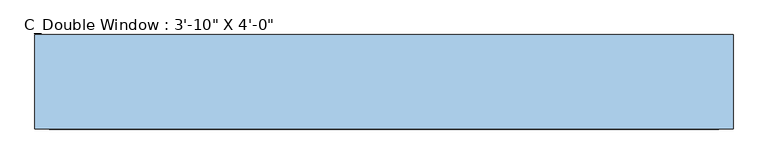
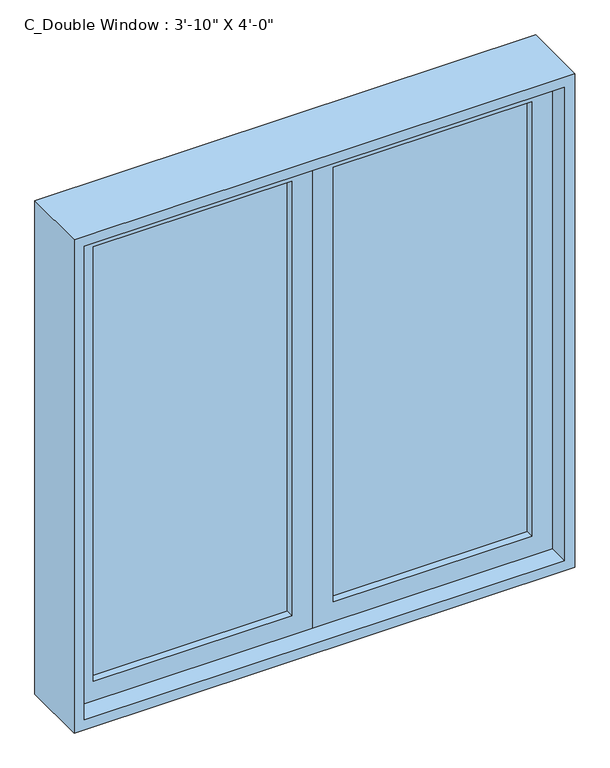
"""IFC4 building model written with IfcOpenShell, lengths in millimetres: window geometry."""

from ifc_helpers import new_model, si_unit, frame, origin, place, context, project, spatial, polyline, outline, extrude, source, transform, mapped, element, save


def window_50703a3a(model_context):
    return source(origin(), model_context, "Body", "SweptSolid", [
        extrude(outline(polyline([(-533.4, -12.7), (-533.4, 0.0), (-50.8, 0.0), (-50.8, -12.7), (-533.4, -12.7)])), frame((0.0, 0.0, 965.2), z_axis=(0.0, 0.0, 1.0), x_axis=(1.0, 0.0, 0.0)), (0.0, 0.0, 1.0), 1117.6),
        extrude(outline(polyline([(2133.6, -584.2), (914.4, -584.2), (914.4, 0.0), (2133.6, 0.0), (2133.6, -584.2)]), holes=[polyline([(2082.8, -50.8), (965.2, -50.8), (965.2, -533.4), (2082.8, -533.4), (2082.8, -50.8)])]), frame((0.0, -31.75, 0.0), z_axis=(0.0, 1.0, 0.0), x_axis=(0.0, 0.0, 1.0)), (0.0, 0.0, 1.0), 50.8),
        extrude(outline(polyline([(50.8, -12.7), (50.8, 0.0), (533.4, 0.0), (533.4, -12.7), (50.8, -12.7)])), frame((0.0, 0.0, 965.2), z_axis=(0.0, 0.0, 1.0), x_axis=(1.0, 0.0, 0.0)), (0.0, 0.0, 1.0), 1117.6),
        extrude(outline(polyline([(2133.6, 0.0), (914.4, 0.0), (914.4, 584.2), (2133.6, 584.2), (2133.6, 0.0)]), holes=[polyline([(2082.8, 533.4), (965.2, 533.4), (965.2, 50.8), (2082.8, 50.8), (2082.8, 533.4)])]), frame((0.0, -31.75, 0.0), z_axis=(0.0, 1.0, 0.0), x_axis=(0.0, 0.0, 1.0)), (0.0, 0.0, 1.0), 50.8),
        extrude(outline(polyline([(2159.0, -609.6), (889.0, -609.6), (889.0, 609.6), (2159.0, 609.6), (2159.0, -609.6)]), holes=[polyline([(2133.6, 584.2), (914.4, 584.2), (914.4, -584.2), (2133.6, -584.2), (2133.6, 584.2)])]), frame((0.0, -82.55, 0.0), z_axis=(0.0, 1.0, 0.0), x_axis=(0.0, 0.0, 1.0)), (0.0, 0.0, 1.0), 165.1),
    ])


if __name__ == "__main__":
    model = new_model("IFC4")
    model_context = context("Model", 3, world=origin())
    ifc_project = project(units=[si_unit("LENGTHUNIT", "METRE", prefix="MILLI")], contexts=[model_context])
    site = spatial("IfcSite", under=ifc_project)
    building = spatial("IfcBuilding", under=site)
    placement = place(None, origin())
    window_shape = window_50703a3a(model_context)
    element("IfcWindow", 1, ObjectType="C_Double Window : 3'-10\" X 4'-0\"", at=placement, inside=building, context=model_context, shape_type="MappedRepresentation", body=[
        mapped(window_shape, transform((0.0, 0.0, 0.0), x_axis=(1.0, 0.0, 0.0), y_axis=(0.0, 1.0, 0.0), z_axis=(0.0, 0.0, 1.0))),
    ])
    save(model, "model.ifc")
